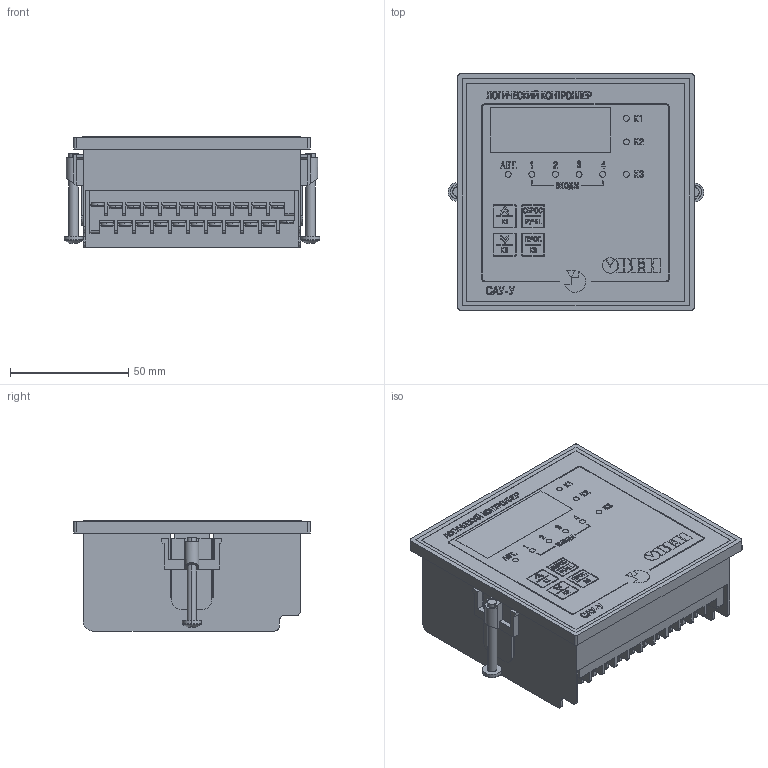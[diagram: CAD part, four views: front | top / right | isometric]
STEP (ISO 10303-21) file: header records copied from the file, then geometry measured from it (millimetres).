
FILE_DESCRIPTION (( 'STEP AP214' ), '1' );
FILE_NAME ('3D Ìîäåëü ÑÀÓ-Ó.Ù11.STEP', '2015-07-20T13:04:09', ( '' ), ( '' ), 'SwSTEP 2.0', 'SolidWorks 2013', '' );
FILE_SCHEMA (( 'AUTOMOTIVE_DESIGN' ));
Length unit declared in the file: millimetre
Products named in the file (12): 3D Ìîäåëü ÑÀÓ-Ó.Ù11; Ïàíåëü ëèöåâàÿ ÑÀÓ-Ó; 妈眚 󊅛5_B18.6.7M - M4 x 0.7 x 40 Type I Cross Recessed PHMS --40N; Ðåçèíêà; 栺闀闉 睯艜鍒鍣 1; 抔樦擨鴀 枎-20; Âèíò äëÿ ðîçåòêè êðåïåæíûé; Çàæèì êëåììíûé; Âèíò äëÿ ðîçåòêè; ïëàñòèíêà çàæèìíàÿ; Ðîçåòêà êëåììíàÿ ÌÕ-20; 扻豵鵨
Assembly tree (33 placements, depth 4):
  3D Ìîäåëü ÑÀÓ-Ó.Ù11
    扻豵鵨
    抔樦擨鴀 枎-20
      Ðîçåòêà êëåììíàÿ ÌÕ-20
      Çàæèì êëåììíûé  x20
        ïëàñòèíêà çàæèìíàÿ
        Âèíò äëÿ ðîçåòêè
      Âèíò äëÿ ðîçåòêè êðåïåæíûé  x2
    栺闀闉 睯艜鍒鍣 1  x2
    Ðåçèíêà
    妈眚 󊅛5_B18.6.7M - M4 x 0.7 x 40 Type I Cross Recessed PHMS --40N  x2
    Ïàíåëü ëèöåâàÿ ÑÀÓ-Ó
Bounding box: 108.4 x 100 x 46.6 mm (x, y, z)
Volume: 75700.8 mm3; surface area: 103700.2 mm2
Topology: 50 solids, 50 shells, 2055 faces, 5238 edges, 3439 vertices
Faces by surface type: plane 1589, bspline 261, cylinder 161, torus 44
Entity records: 61987 total; most frequent: CARTESIAN_POINT 11361, ORIENTED_EDGE 7778, DIRECTION 6128, EDGE_CURVE 3889, LINE 3124, VECTOR 3124, VERTEX_POINT 2559, EDGE_LOOP 1630
